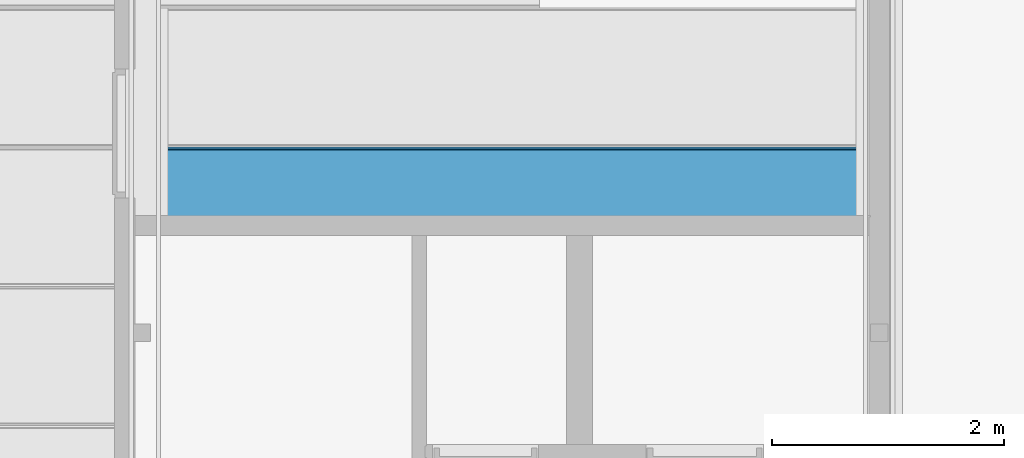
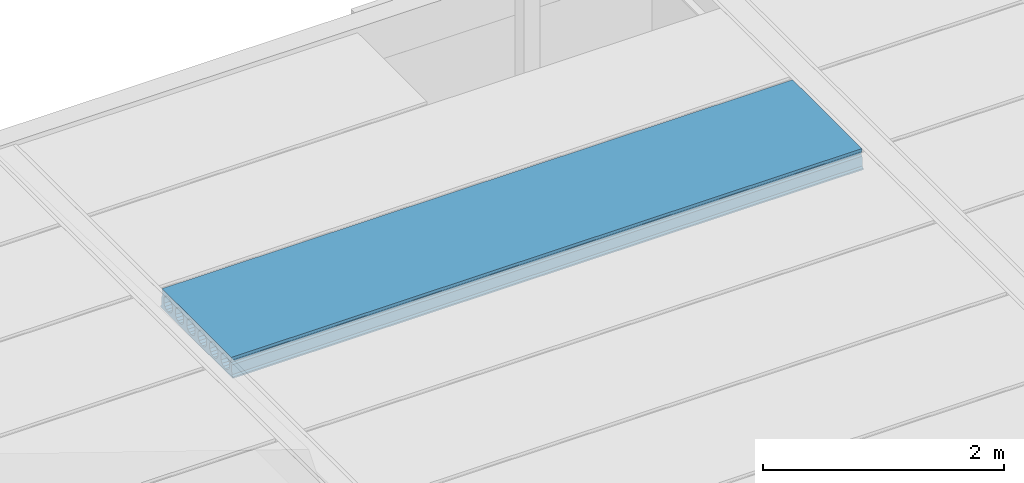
# One storey, part 14 of 45: 1 beam.
"""IFC2X3 building model written with IfcOpenShell, lengths in millimetres."""

from ifc_helpers import new_model, entity, si_unit, converted_unit, frame, origin, place, context, subcontext, project, spatial, faceted_brep, material, element, save


model = new_model("IFC2X3")

# Units and contexts
model_context = context("Model", 3, precision=1e-05, world=origin())
plan_context = context("Plan", 3, precision=1e-05, world=origin())
body_context = subcontext(model_context, "Body", "Model", "MODEL_VIEW")
ifc_project = project(units=[si_unit("LENGTHUNIT", "METRE", prefix="MILLI"), converted_unit("PLANEANGLEUNIT", "DEGREE", entity("IfcPlaneAngleMeasure", 0.0174532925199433), si_unit("PLANEANGLEUNIT", "RADIAN"), dimensions=[0, 0, 0, 0, 0, 0, 0]), si_unit("AREAUNIT", "SQUARE_METRE"), si_unit("VOLUMEUNIT", "CUBIC_METRE")], contexts=[model_context, plan_context])

# Building, storey
building_placement = place(None, origin())
building = spatial("IfcBuilding", under=ifc_project, at=building_placement, Name="HEKF Administrasjonbygg", CompositionType="ELEMENT")
storey_placement = place(building_placement, frame((0.0, 0.0, 6500.0), z_axis=(0.0, 0.0, 1.0), x_axis=(1.0, 0.0, 0.0)))
storey = spatial("IfcBuildingStorey", under=building, at=storey_placement, Name="Plan 1", CompositionType="ELEMENT", Elevation=6500.0)

# Beam
ifc_material = material()
beam_placement = place(storey_placement, frame((0.0, 0.0, -6500.0), z_axis=(0.0, 0.0, 1.0), x_axis=(1.0, 0.0, 0.0)))
element("IfcBeam", 1, at=beam_placement, inside=storey, material=ifc_material, context=body_context, shape_type="Brep", body=[
    faceted_brep([(10135.0, -2399.999999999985, 9684.999999), (10135.0, -2399.999999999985, 9670.0), (16189.99999999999, -2400.0, 9670.000000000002), (16189.99999999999, -2400.0, 9684.999999), (10135.0, -3599.999999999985, 9684.999999), (10135.0, -3599.999999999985, 9670.0), (10135.0, -2399.999999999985, 9670.0), (10135.0, -2399.999999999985, 9684.999999), (10135.0, -2414.99987952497, 9699.999998), (10135.0, -2420.000002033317, 9794.999985), (10135.0, -2435.000003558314, 9809.999985), (10135.0, -2435.000003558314, 9829.999985), (10135.0, -2422.727297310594, 9842.272583), (10135.0, -2424.047732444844, 9870.0), (10135.0, -3575.952372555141, 9870.0), (10135.0, -3577.272729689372, 9842.272735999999), (10135.0, -3565.000000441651, 9829.999985), (10135.0, -3565.000000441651, 9809.999985), (10135.0, -3580.000001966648, 9794.999985), (10135.0, -3584.999999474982, 9699.999998), (10135.0, -3474.999987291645, 9694.999989), (10135.0, -3503.701261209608, 9700.709023), (10135.0, -3528.033020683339, 9716.966995), (10135.0, -3544.290964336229, 9741.298752), (10135.0, -3544.290960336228, 9798.701262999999), (10135.0, -3528.032997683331, 9823.03299), (10135.0, -3503.70124620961, 9839.290955), (10135.0, -3474.999987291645, 9845.0), (10135.0, -3446.298721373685, 9839.290955), (10135.0, -3421.966976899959, 9823.033005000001), (10135.0, -3405.709010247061, 9798.701233), (10135.0, -3405.708980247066, 9741.298767), (10135.0, -3421.966961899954, 9716.966995), (10135.0, -3446.29870537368, 9700.709023), (10135.0, -3284.999967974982, 9694.999989), (10135.0, -3313.701241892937, 9700.709023), (10135.0, -3338.033001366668, 9716.966995), (10135.0, -3354.290945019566, 9741.298752), (10135.0, -3354.290941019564, 9798.701262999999), (10135.0, -3338.032978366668, 9823.03299), (10135.0, -3313.701226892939, 9839.290955), (10135.0, -3284.999967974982, 9845.0), (10135.0, -3256.298702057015, 9839.290955), (10135.0, -3231.966957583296, 9823.033005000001), (10135.0, -3215.708990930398, 9798.701233), (10135.0, -3215.708960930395, 9741.298767), (10135.0, -3231.966942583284, 9716.966995), (10135.0, -3256.298686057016, 9700.709023), (10135.0, -3094.999948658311, 9694.999989), (10135.0, -3123.701222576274, 9700.709023), (10135.0, -3148.032982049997, 9716.966995), (10135.0, -3164.290925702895, 9741.298752), (10135.0, -3164.290921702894, 9798.701262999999), (10135.0, -3148.032959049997, 9823.03299), (10135.0, -3123.701207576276, 9839.290955), (10135.0, -3094.999948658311, 9845.0), (10135.0, -3066.298682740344, 9839.290955), (10135.0, -3041.966938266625, 9823.033005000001), (10135.0, -3025.708971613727, 9798.701233), (10135.0, -3025.708941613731, 9741.298767), (10135.0, -3041.96692326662, 9716.966995), (10135.0, -3066.298666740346, 9700.709023), (10135.0, -2904.99992934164, 9694.999989), (10135.0, -2933.701203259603, 9700.709023), (10135.0, -2958.032962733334, 9716.966995), (10135.0, -2974.290906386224, 9741.298752), (10135.0, -2974.290902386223, 9798.701262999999), (10135.0, -2958.032939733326, 9823.03299), (10135.0, -2933.701188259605, 9839.290955), (10135.0, -2904.99992934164, 9845.0), (10135.0, -2876.29866342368, 9839.290955), (10135.0, -2851.966918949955, 9823.033005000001), (10135.0, -2835.708952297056, 9798.701233), (10135.0, -2835.708922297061, 9741.298767), (10135.0, -2851.96690394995, 9716.966995), (10135.0, -2876.298647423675, 9700.709023), (10135.0, -2714.999910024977, 9694.999989), (10135.0, -2743.701183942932, 9700.709023), (10135.0, -2768.032943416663, 9716.966995), (10135.0, -2784.290887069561, 9741.298752), (10135.0, -2784.29088306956, 9798.701262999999), (10135.0, -2768.032920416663, 9823.03299), (10135.0, -2743.701168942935, 9839.290955), (10135.0, -2714.999910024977, 9845.0), (10135.0, -2686.29864410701, 9839.290955), (10135.0, -2661.966899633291, 9823.033005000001), (10135.0, -2645.708932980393, 9798.701233), (10135.0, -2645.70890298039, 9741.298767), (10135.0, -2661.966884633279, 9716.966995), (10135.0, -2686.298628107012, 9700.709023), (10135.0, -2524.999890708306, 9694.999989), (10135.0, -2553.701164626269, 9700.709023), (10135.0, -2578.032924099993, 9716.966995), (10135.0, -2594.29086775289, 9741.298752), (10135.0, -2594.290863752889, 9798.701262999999), (10135.0, -2578.032901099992, 9823.03299), (10135.0, -2553.701149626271, 9839.290955), (10135.0, -2524.999890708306, 9845.0), (10135.0, -2496.298624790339, 9839.290955), (10135.0, -2471.966880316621, 9823.033005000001), (10135.0, -2455.708913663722, 9798.701233), (10135.0, -2455.708883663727, 9741.298767), (10135.0, -2471.966865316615, 9716.966995), (10135.0, -2496.298608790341, 9700.709023), (16190.0, -3600.0, 9684.999999), (16190.0, -3600.0, 9670.0), (10135.0, -3599.999999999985, 9670.0), (10135.0, -3599.999999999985, 9684.999999), (16189.99999999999, -2400.0, 9684.999999), (16189.99999999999, -2400.0, 9670.000000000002), (16190.0, -3600.0, 9670.0), (16190.0, -3600.0, 9684.999999), (16190.0, -3584.999999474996, 9699.999998), (16190.0, -3580.000001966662, 9794.999985), (16190.0, -3565.000000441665, 9809.999985), (16190.0, -3565.000000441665, 9829.999985), (16190.0, -3577.272729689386, 9842.272735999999), (16190.0, -3575.952372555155, 9870.0), (16190.0, -2424.047732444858, 9870.0), (16190.0, -2422.727297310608, 9842.272583), (16190.0, -2435.000003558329, 9829.999985), (16190.0, -2435.000003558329, 9809.999985), (16190.0, -2420.000002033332, 9794.999985), (16190.0, -2414.999879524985, 9699.999998), (16190.0, -2524.999890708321, 9694.999989), (16190.0, -2496.298608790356, 9700.709023), (16190.0, -2471.96686531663, 9716.966995), (16190.0, -2455.708883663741, 9741.298767), (16190.0, -2455.708913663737, 9798.701233), (16190.0, -2471.966880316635, 9823.033005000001), (16190.0, -2496.298624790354, 9839.290955), (16190.0, -2524.999890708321, 9845.0), (16190.0, -2553.701149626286, 9839.290955), (16190.0, -2578.032901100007, 9823.03299), (16190.0, -2594.290863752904, 9798.701262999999), (16190.0, -2594.290867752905, 9741.298752), (16190.0, -2578.032924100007, 9716.966995), (16190.0, -2553.701164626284, 9700.709023), (16190.0, -2714.999910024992, 9694.999989), (16190.0, -2686.298628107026, 9700.709023), (16190.0, -2661.966884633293, 9716.966995), (16190.0, -2645.708902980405, 9741.298767), (16190.0, -2645.708932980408, 9798.701233), (16190.0, -2661.966899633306, 9823.033005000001), (16190.0, -2686.298644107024, 9839.290955), (16190.0, -2714.999910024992, 9845.0), (16190.0, -2743.701168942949, 9839.290955), (16190.0, -2768.032920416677, 9823.03299), (16190.0, -2784.290883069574, 9798.701262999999), (16190.0, -2784.290887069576, 9741.298752), (16190.0, -2768.032943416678, 9716.966995), (16190.0, -2743.701183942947, 9700.709023), (16190.0, -2904.999929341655, 9694.999989), (16190.0, -2876.29864742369, 9700.709023), (16190.0, -2851.966903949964, 9716.966995), (16190.0, -2835.708922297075, 9741.298767), (16190.0, -2835.708952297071, 9798.701233), (16190.0, -2851.966918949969, 9823.033005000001), (16190.0, -2876.298663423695, 9839.290955), (16190.0, -2904.999929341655, 9845.0), (16190.0, -2933.70118825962, 9839.290955), (16190.0, -2958.032939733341, 9823.03299), (16190.0, -2974.290902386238, 9798.701262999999), (16190.0, -2974.290906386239, 9741.298752), (16190.0, -2958.032962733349, 9716.966995), (16190.0, -2933.701203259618, 9700.709023), (16190.0, -3094.999948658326, 9694.999989), (16190.0, -3066.29866674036, 9700.709023), (16190.0, -3041.966923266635, 9716.966995), (16190.0, -3025.708941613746, 9741.298767), (16190.0, -3025.708971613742, 9798.701233), (16190.0, -3041.96693826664, 9823.033005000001), (16190.0, -3066.298682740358, 9839.290955), (16190.0, -3094.999948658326, 9845.0), (16190.0, -3123.701207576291, 9839.290955), (16190.0, -3148.032959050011, 9823.03299), (16190.0, -3164.290921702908, 9798.701262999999), (16190.0, -3164.29092570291, 9741.298752), (16190.0, -3148.032982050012, 9716.966995), (16190.0, -3123.701222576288, 9700.709023), (16190.0, -3284.999967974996, 9694.999989), (16190.0, -3256.298686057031, 9700.709023), (16190.0, -3231.966942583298, 9716.966995), (16190.0, -3215.708960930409, 9741.298767), (16190.0, -3215.708990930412, 9798.701233), (16190.0, -3231.96695758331, 9823.033005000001), (16190.0, -3256.298702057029, 9839.290955), (16190.0, -3284.999967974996, 9845.0), (16190.0, -3313.701226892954, 9839.290955), (16190.0, -3338.032978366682, 9823.03299), (16190.0, -3354.290941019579, 9798.701262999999), (16190.0, -3354.29094501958, 9741.298752), (16190.0, -3338.033001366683, 9716.966995), (16190.0, -3313.701241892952, 9700.709023), (16190.0, -3474.99998729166, 9694.999989), (16190.0, -3446.298705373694, 9700.709023), (16190.0, -3421.966961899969, 9716.966995), (16190.0, -3405.70898024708, 9741.298767), (16190.0, -3405.709010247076, 9798.701233), (16190.0, -3421.966976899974, 9823.033005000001), (16190.0, -3446.2987213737, 9839.290955), (16190.0, -3474.99998729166, 9845.0), (16190.0, -3503.701246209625, 9839.290955), (16190.0, -3528.032997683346, 9823.03299), (16190.0, -3544.290960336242, 9798.701262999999), (16190.0, -3544.290964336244, 9741.298752), (16190.0, -3528.033020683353, 9716.966995), (16190.0, -3503.701261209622, 9700.709023), (10135.0, -3599.999999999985, 9684.999999), (10135.0, -3584.999999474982, 9699.999998), (16190.0, -3584.999999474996, 9699.999998), (16190.0, -3600.0, 9684.999999), (10135.0, -3584.999999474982, 9699.999998), (10135.0, -3580.000001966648, 9794.999985), (16190.0, -3580.000001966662, 9794.999985), (16190.0, -3584.999999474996, 9699.999998), (10135.0, -3580.000001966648, 9794.999985), (10135.0, -3565.000000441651, 9809.999985), (16190.0, -3565.000000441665, 9809.999985), (16190.0, -3580.000001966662, 9794.999985), (10135.0, -3565.000000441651, 9809.999985), (10135.0, -3565.000000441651, 9829.999985), (16190.0, -3565.000000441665, 9829.999985), (16190.0, -3565.000000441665, 9809.999985), (10135.0, -3565.000000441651, 9829.999985), (10135.0, -3577.272729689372, 9842.272735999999), (16190.0, -3577.272729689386, 9842.272735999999), (16190.0, -3565.000000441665, 9829.999985), (10135.0, -3577.272729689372, 9842.272735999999), (10135.0, -3575.952372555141, 9870.0), (16190.0, -3575.952372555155, 9870.0), (16190.0, -3577.272729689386, 9842.272735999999), (10135.0, -3575.952372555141, 9870.0), (10135.0, -2424.047732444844, 9870.0), (16190.0, -2424.047732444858, 9870.0), (16190.0, -3575.952372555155, 9870.0), (10135.0, -2424.047732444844, 9870.0), (10135.0, -2422.727297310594, 9842.272583), (16190.0, -2422.727297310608, 9842.272583), (16190.0, -2424.047732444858, 9870.0), (10135.0, -2422.727297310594, 9842.272583), (10135.0, -2435.000003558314, 9829.999985), (16190.0, -2435.000003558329, 9829.999985), (16190.0, -2422.727297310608, 9842.272583), (10135.0, -2435.000003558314, 9829.999985), (10135.0, -2435.000003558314, 9809.999985), (16190.0, -2435.000003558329, 9809.999985), (16190.0, -2435.000003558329, 9829.999985), (10135.0, -2435.000003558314, 9809.999985), (10135.0, -2420.000002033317, 9794.999985), (16190.0, -2420.000002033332, 9794.999985), (16190.0, -2435.000003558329, 9809.999985), (10135.0, -2420.000002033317, 9794.999985), (10135.0, -2414.99987952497, 9699.999998), (16190.0, -2414.999879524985, 9699.999998), (16190.0, -2420.000002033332, 9794.999985), (10135.0, -2414.99987952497, 9699.999998), (10135.0, -2399.999999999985, 9684.999999), (16189.99999999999, -2400.0, 9684.999999), (16190.0, -2414.999879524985, 9699.999998), (10135.0, -2399.999999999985, 9670.0), (10135.0, -3599.999999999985, 9670.0), (16190.0, -3600.0, 9670.0), (16189.99999999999, -2400.0, 9670.000000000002), (10135.0, -2524.999890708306, 9694.999989), (10135.0, -2496.298608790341, 9700.709023), (16190.0, -2496.298608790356, 9700.709023), (16190.0, -2524.999890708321, 9694.999989), (10135.0, -2496.298608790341, 9700.709023), (10135.0, -2471.966865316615, 9716.966995), (16190.0, -2471.96686531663, 9716.966995), (16190.0, -2496.298608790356, 9700.709023), (10135.0, -2471.966865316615, 9716.966995), (10135.0, -2455.708883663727, 9741.298767), (16190.0, -2455.708883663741, 9741.298767), (16190.0, -2471.96686531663, 9716.966995), (10135.0, -2455.708883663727, 9741.298767), (10135.0, -2455.708913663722, 9798.701233), (16190.0, -2455.708913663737, 9798.701233), (16190.0, -2455.708883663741, 9741.298767), (10135.0, -2455.708913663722, 9798.701233), (10135.0, -2471.966880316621, 9823.033005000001), (16190.0, -2471.966880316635, 9823.033005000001), (16190.0, -2455.708913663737, 9798.701233), (10135.0, -2471.966880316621, 9823.033005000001), (10135.0, -2496.298624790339, 9839.290955), (16190.0, -2496.298624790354, 9839.290955), (16190.0, -2471.966880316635, 9823.033005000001), (10135.0, -2496.298624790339, 9839.290955), (10135.0, -2524.999890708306, 9845.0), (16190.0, -2524.999890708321, 9845.0), (16190.0, -2496.298624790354, 9839.290955), (10135.0, -2524.999890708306, 9845.0), (10135.0, -2553.701149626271, 9839.290955), (16190.0, -2553.701149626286, 9839.290955), (16190.0, -2524.999890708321, 9845.0), (10135.0, -2553.701149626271, 9839.290955), (10135.0, -2578.032901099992, 9823.03299), (16190.0, -2578.032901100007, 9823.03299), (16190.0, -2553.701149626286, 9839.290955), (10135.0, -2578.032901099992, 9823.03299), (10135.0, -2594.290863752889, 9798.701262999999), (16190.0, -2594.290863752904, 9798.701262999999), (16190.0, -2578.032901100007, 9823.03299), (10135.0, -2594.290863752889, 9798.701262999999), (10135.0, -2594.29086775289, 9741.298752), (16190.0, -2594.290867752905, 9741.298752), (16190.0, -2594.290863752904, 9798.701262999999), (10135.0, -2594.29086775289, 9741.298752), (10135.0, -2578.032924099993, 9716.966995), (16190.0, -2578.032924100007, 9716.966995), (16190.0, -2594.290867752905, 9741.298752), (10135.0, -2578.032924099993, 9716.966995), (10135.0, -2553.701164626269, 9700.709023), (16190.0, -2553.701164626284, 9700.709023), (16190.0, -2578.032924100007, 9716.966995), (10135.0, -2553.701164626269, 9700.709023), (10135.0, -2524.999890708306, 9694.999989), (16190.0, -2524.999890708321, 9694.999989), (16190.0, -2553.701164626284, 9700.709023), (10135.0, -2714.999910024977, 9694.999989), (10135.0, -2686.298628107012, 9700.709023), (16190.0, -2686.298628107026, 9700.709023), (16190.0, -2714.999910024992, 9694.999989), (10135.0, -2686.298628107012, 9700.709023), (10135.0, -2661.966884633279, 9716.966995), (16190.0, -2661.966884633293, 9716.966995), (16190.0, -2686.298628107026, 9700.709023), (10135.0, -2661.966884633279, 9716.966995), (10135.0, -2645.70890298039, 9741.298767), (16190.0, -2645.708902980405, 9741.298767), (16190.0, -2661.966884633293, 9716.966995), (10135.0, -2645.70890298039, 9741.298767), (10135.0, -2645.708932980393, 9798.701233), (16190.0, -2645.708932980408, 9798.701233), (16190.0, -2645.708902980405, 9741.298767), (10135.0, -2645.708932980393, 9798.701233), (10135.0, -2661.966899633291, 9823.033005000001), (16190.0, -2661.966899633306, 9823.033005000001), (16190.0, -2645.708932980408, 9798.701233), (10135.0, -2661.966899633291, 9823.033005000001), (10135.0, -2686.29864410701, 9839.290955), (16190.0, -2686.298644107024, 9839.290955), (16190.0, -2661.966899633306, 9823.033005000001), (10135.0, -2686.29864410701, 9839.290955), (10135.0, -2714.999910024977, 9845.0), (16190.0, -2714.999910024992, 9845.0), (16190.0, -2686.298644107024, 9839.290955), (10135.0, -2714.999910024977, 9845.0), (10135.0, -2743.701168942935, 9839.290955), (16190.0, -2743.701168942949, 9839.290955), (16190.0, -2714.999910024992, 9845.0), (10135.0, -2743.701168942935, 9839.290955), (10135.0, -2768.032920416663, 9823.03299), (16190.0, -2768.032920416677, 9823.03299), (16190.0, -2743.701168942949, 9839.290955), (10135.0, -2768.032920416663, 9823.03299), (10135.0, -2784.29088306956, 9798.701262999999), (16190.0, -2784.290883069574, 9798.701262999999), (16190.0, -2768.032920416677, 9823.03299), (10135.0, -2784.29088306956, 9798.701262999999), (10135.0, -2784.290887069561, 9741.298752), (16190.0, -2784.290887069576, 9741.298752), (16190.0, -2784.290883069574, 9798.701262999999), (10135.0, -2784.290887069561, 9741.298752), (10135.0, -2768.032943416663, 9716.966995), (16190.0, -2768.032943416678, 9716.966995), (16190.0, -2784.290887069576, 9741.298752), (10135.0, -2768.032943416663, 9716.966995), (10135.0, -2743.701183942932, 9700.709023), (16190.0, -2743.701183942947, 9700.709023), (16190.0, -2768.032943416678, 9716.966995), (10135.0, -2743.701183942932, 9700.709023), (10135.0, -2714.999910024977, 9694.999989), (16190.0, -2714.999910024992, 9694.999989), (16190.0, -2743.701183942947, 9700.709023), (10135.0, -2904.99992934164, 9694.999989), (10135.0, -2876.298647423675, 9700.709023), (16190.0, -2876.29864742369, 9700.709023), (16190.0, -2904.999929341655, 9694.999989), (10135.0, -2876.298647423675, 9700.709023), (10135.0, -2851.96690394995, 9716.966995), (16190.0, -2851.966903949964, 9716.966995), (16190.0, -2876.29864742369, 9700.709023), (10135.0, -2851.96690394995, 9716.966995), (10135.0, -2835.708922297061, 9741.298767), (16190.0, -2835.708922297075, 9741.298767), (16190.0, -2851.966903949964, 9716.966995), (10135.0, -2835.708922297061, 9741.298767), (10135.0, -2835.708952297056, 9798.701233), (16190.0, -2835.708952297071, 9798.701233), (16190.0, -2835.708922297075, 9741.298767), (10135.0, -2835.708952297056, 9798.701233), (10135.0, -2851.966918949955, 9823.033005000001), (16190.0, -2851.966918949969, 9823.033005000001), (16190.0, -2835.708952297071, 9798.701233), (10135.0, -2851.966918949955, 9823.033005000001), (10135.0, -2876.29866342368, 9839.290955), (16190.0, -2876.298663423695, 9839.290955), (16190.0, -2851.966918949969, 9823.033005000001), (10135.0, -2876.29866342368, 9839.290955), (10135.0, -2904.99992934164, 9845.0), (16190.0, -2904.999929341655, 9845.0), (16190.0, -2876.298663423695, 9839.290955), (10135.0, -2904.99992934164, 9845.0), (10135.0, -2933.701188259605, 9839.290955), (16190.0, -2933.70118825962, 9839.290955), (16190.0, -2904.999929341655, 9845.0), (10135.0, -2933.701188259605, 9839.290955), (10135.0, -2958.032939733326, 9823.03299), (16190.0, -2958.032939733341, 9823.03299), (16190.0, -2933.70118825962, 9839.290955), (10135.0, -2958.032939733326, 9823.03299), (10135.0, -2974.290902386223, 9798.701262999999), (16190.0, -2974.290902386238, 9798.701262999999), (16190.0, -2958.032939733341, 9823.03299), (10135.0, -2974.290902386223, 9798.701262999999), (10135.0, -2974.290906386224, 9741.298752), (16190.0, -2974.290906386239, 9741.298752), (16190.0, -2974.290902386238, 9798.701262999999), (10135.0, -2974.290906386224, 9741.298752), (10135.0, -2958.032962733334, 9716.966995), (16190.0, -2958.032962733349, 9716.966995), (16190.0, -2974.290906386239, 9741.298752), (10135.0, -2958.032962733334, 9716.966995), (10135.0, -2933.701203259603, 9700.709023), (16190.0, -2933.701203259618, 9700.709023), (16190.0, -2958.032962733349, 9716.966995), (10135.0, -2933.701203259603, 9700.709023), (10135.0, -2904.99992934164, 9694.999989), (16190.0, -2904.999929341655, 9694.999989), (16190.0, -2933.701203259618, 9700.709023), (10135.0, -3094.999948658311, 9694.999989), (10135.0, -3066.298666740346, 9700.709023), (16190.0, -3066.29866674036, 9700.709023), (16190.0, -3094.999948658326, 9694.999989), (10135.0, -3066.298666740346, 9700.709023), (10135.0, -3041.96692326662, 9716.966995), (16190.0, -3041.966923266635, 9716.966995), (16190.0, -3066.29866674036, 9700.709023), (10135.0, -3041.96692326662, 9716.966995), (10135.0, -3025.708941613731, 9741.298767), (16190.0, -3025.708941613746, 9741.298767), (16190.0, -3041.966923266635, 9716.966995), (10135.0, -3025.708941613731, 9741.298767), (10135.0, -3025.708971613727, 9798.701233), (16190.0, -3025.708971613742, 9798.701233), (16190.0, -3025.708941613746, 9741.298767), (10135.0, -3025.708971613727, 9798.701233), (10135.0, -3041.966938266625, 9823.033005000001), (16190.0, -3041.96693826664, 9823.033005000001), (16190.0, -3025.708971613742, 9798.701233), (10135.0, -3041.966938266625, 9823.033005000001), (10135.0, -3066.298682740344, 9839.290955), (16190.0, -3066.298682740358, 9839.290955), (16190.0, -3041.96693826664, 9823.033005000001), (10135.0, -3066.298682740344, 9839.290955), (10135.0, -3094.999948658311, 9845.0), (16190.0, -3094.999948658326, 9845.0), (16190.0, -3066.298682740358, 9839.290955), (10135.0, -3094.999948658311, 9845.0), (10135.0, -3123.701207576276, 9839.290955), (16190.0, -3123.701207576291, 9839.290955), (16190.0, -3094.999948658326, 9845.0), (10135.0, -3123.701207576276, 9839.290955), (10135.0, -3148.032959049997, 9823.03299), (16190.0, -3148.032959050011, 9823.03299), (16190.0, -3123.701207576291, 9839.290955), (10135.0, -3148.032959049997, 9823.03299), (10135.0, -3164.290921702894, 9798.701262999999), (16190.0, -3164.290921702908, 9798.701262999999), (16190.0, -3148.032959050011, 9823.03299), (10135.0, -3164.290921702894, 9798.701262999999), (10135.0, -3164.290925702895, 9741.298752), (16190.0, -3164.29092570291, 9741.298752), (16190.0, -3164.290921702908, 9798.701262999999), (10135.0, -3164.290925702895, 9741.298752), (10135.0, -3148.032982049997, 9716.966995), (16190.0, -3148.032982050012, 9716.966995), (16190.0, -3164.29092570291, 9741.298752), (10135.0, -3148.032982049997, 9716.966995), (10135.0, -3123.701222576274, 9700.709023), (16190.0, -3123.701222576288, 9700.709023), (16190.0, -3148.032982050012, 9716.966995), (10135.0, -3123.701222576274, 9700.709023), (10135.0, -3094.999948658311, 9694.999989), (16190.0, -3094.999948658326, 9694.999989), (16190.0, -3123.701222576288, 9700.709023), (10135.0, -3284.999967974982, 9694.999989), (10135.0, -3256.298686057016, 9700.709023), (16190.0, -3256.298686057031, 9700.709023), (16190.0, -3284.999967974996, 9694.999989), (10135.0, -3256.298686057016, 9700.709023), (10135.0, -3231.966942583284, 9716.966995), (16190.0, -3231.966942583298, 9716.966995), (16190.0, -3256.298686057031, 9700.709023), (10135.0, -3231.966942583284, 9716.966995), (10135.0, -3215.708960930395, 9741.298767), (16190.0, -3215.708960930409, 9741.298767), (16190.0, -3231.966942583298, 9716.966995), (10135.0, -3215.708960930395, 9741.298767), (10135.0, -3215.708990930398, 9798.701233), (16190.0, -3215.708990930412, 9798.701233), (16190.0, -3215.708960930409, 9741.298767), (10135.0, -3215.708990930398, 9798.701233), (10135.0, -3231.966957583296, 9823.033005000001), (16190.0, -3231.96695758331, 9823.033005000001), (16190.0, -3215.708990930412, 9798.701233), (10135.0, -3231.966957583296, 9823.033005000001), (10135.0, -3256.298702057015, 9839.290955), (16190.0, -3256.298702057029, 9839.290955), (16190.0, -3231.96695758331, 9823.033005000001), (10135.0, -3256.298702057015, 9839.290955), (10135.0, -3284.999967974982, 9845.0), (16190.0, -3284.999967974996, 9845.0), (16190.0, -3256.298702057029, 9839.290955), (10135.0, -3284.999967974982, 9845.0), (10135.0, -3313.701226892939, 9839.290955), (16190.0, -3313.701226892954, 9839.290955), (16190.0, -3284.999967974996, 9845.0), (10135.0, -3313.701226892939, 9839.290955), (10135.0, -3338.032978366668, 9823.03299), (16190.0, -3338.032978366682, 9823.03299), (16190.0, -3313.701226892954, 9839.290955), (10135.0, -3338.032978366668, 9823.03299), (10135.0, -3354.290941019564, 9798.701262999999), (16190.0, -3354.290941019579, 9798.701262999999), (16190.0, -3338.032978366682, 9823.03299), (10135.0, -3354.290941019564, 9798.701262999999), (10135.0, -3354.290945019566, 9741.298752), (16190.0, -3354.29094501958, 9741.298752), (16190.0, -3354.290941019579, 9798.701262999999), (10135.0, -3354.290945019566, 9741.298752), (10135.0, -3338.033001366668, 9716.966995), (16190.0, -3338.033001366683, 9716.966995), (16190.0, -3354.29094501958, 9741.298752), (10135.0, -3338.033001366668, 9716.966995), (10135.0, -3313.701241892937, 9700.709023), (16190.0, -3313.701241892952, 9700.709023), (16190.0, -3338.033001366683, 9716.966995), (10135.0, -3313.701241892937, 9700.709023), (10135.0, -3284.999967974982, 9694.999989), (16190.0, -3284.999967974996, 9694.999989), (16190.0, -3313.701241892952, 9700.709023), (10135.0, -3474.999987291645, 9694.999989), (10135.0, -3446.29870537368, 9700.709023), (16190.0, -3446.298705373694, 9700.709023), (16190.0, -3474.99998729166, 9694.999989), (10135.0, -3446.29870537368, 9700.709023), (10135.0, -3421.966961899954, 9716.966995), (16190.0, -3421.966961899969, 9716.966995), (16190.0, -3446.298705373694, 9700.709023), (10135.0, -3421.966961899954, 9716.966995), (10135.0, -3405.708980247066, 9741.298767), (16190.0, -3405.70898024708, 9741.298767), (16190.0, -3421.966961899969, 9716.966995), (10135.0, -3405.708980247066, 9741.298767), (10135.0, -3405.709010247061, 9798.701233), (16190.0, -3405.709010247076, 9798.701233), (16190.0, -3405.70898024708, 9741.298767), (10135.0, -3405.709010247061, 9798.701233), (10135.0, -3421.966976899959, 9823.033005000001), (16190.0, -3421.966976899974, 9823.033005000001), (16190.0, -3405.709010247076, 9798.701233), (10135.0, -3421.966976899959, 9823.033005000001), (10135.0, -3446.298721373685, 9839.290955), (16190.0, -3446.2987213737, 9839.290955), (16190.0, -3421.966976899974, 9823.033005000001), (10135.0, -3446.298721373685, 9839.290955), (10135.0, -3474.999987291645, 9845.0), (16190.0, -3474.99998729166, 9845.0), (16190.0, -3446.2987213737, 9839.290955), (10135.0, -3474.999987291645, 9845.0), (10135.0, -3503.70124620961, 9839.290955), (16190.0, -3503.701246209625, 9839.290955), (16190.0, -3474.99998729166, 9845.0), (10135.0, -3503.70124620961, 9839.290955), (10135.0, -3528.032997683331, 9823.03299), (16190.0, -3528.032997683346, 9823.03299), (16190.0, -3503.701246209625, 9839.290955), (10135.0, -3528.032997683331, 9823.03299), (10135.0, -3544.290960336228, 9798.701262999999), (16190.0, -3544.290960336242, 9798.701262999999), (16190.0, -3528.032997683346, 9823.03299), (10135.0, -3544.290960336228, 9798.701262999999), (10135.0, -3544.290964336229, 9741.298752), (16190.0, -3544.290964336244, 9741.298752), (16190.0, -3544.290960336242, 9798.701262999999), (10135.0, -3544.290964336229, 9741.298752), (10135.0, -3528.033020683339, 9716.966995), (16190.0, -3528.033020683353, 9716.966995), (16190.0, -3544.290964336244, 9741.298752), (10135.0, -3528.033020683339, 9716.966995), (10135.0, -3503.701261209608, 9700.709023), (16190.0, -3503.701261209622, 9700.709023), (16190.0, -3528.033020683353, 9716.966995), (10135.0, -3503.701261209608, 9700.709023), (10135.0, -3474.999987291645, 9694.999989), (16190.0, -3474.99998729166, 9694.999989), (16190.0, -3503.701261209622, 9700.709023)], [[[0, 1, 2, 3]], [[4, 5, 6, 7, 8, 9, 10, 11, 12, 13, 14, 15, 16, 17, 18, 19], [20, 21, 22, 23, 24, 25, 26, 27, 28, 29, 30, 31, 32, 33], [34, 35, 36, 37, 38, 39, 40, 41, 42, 43, 44, 45, 46, 47], [48, 49, 50, 51, 52, 53, 54, 55, 56, 57, 58, 59, 60, 61], [62, 63, 64, 65, 66, 67, 68, 69, 70, 71, 72, 73, 74, 75], [76, 77, 78, 79, 80, 81, 82, 83, 84, 85, 86, 87, 88, 89], [90, 91, 92, 93, 94, 95, 96, 97, 98, 99, 100, 101, 102, 103]], [[104, 105, 106, 107]], [[108, 109, 110, 111, 112, 113, 114, 115, 116, 117, 118, 119, 120, 121, 122, 123], [124, 125, 126, 127, 128, 129, 130, 131, 132, 133, 134, 135, 136, 137], [138, 139, 140, 141, 142, 143, 144, 145, 146, 147, 148, 149, 150, 151], [152, 153, 154, 155, 156, 157, 158, 159, 160, 161, 162, 163, 164, 165], [166, 167, 168, 169, 170, 171, 172, 173, 174, 175, 176, 177, 178, 179], [180, 181, 182, 183, 184, 185, 186, 187, 188, 189, 190, 191, 192, 193], [194, 195, 196, 197, 198, 199, 200, 201, 202, 203, 204, 205, 206, 207]], [[208, 209, 210, 211]], [[212, 213, 214, 215]], [[216, 217, 218, 219]], [[220, 221, 222, 223]], [[224, 225, 226, 227]], [[228, 229, 230, 231]], [[232, 233, 234, 235]], [[236, 237, 238, 239]], [[240, 241, 242, 243]], [[244, 245, 246, 247]], [[248, 249, 250, 251]], [[252, 253, 254, 255]], [[256, 257, 258, 259]], [[260, 261, 262, 263]], [[264, 265, 266, 267]], [[268, 269, 270, 271]], [[272, 273, 274, 275]], [[276, 277, 278, 279]], [[280, 281, 282, 283]], [[284, 285, 286, 287]], [[288, 289, 290, 291]], [[292, 293, 294, 295]], [[296, 297, 298, 299]], [[300, 301, 302, 303]], [[304, 305, 306, 307]], [[308, 309, 310, 311]], [[312, 313, 314, 315]], [[316, 317, 318, 319]], [[320, 321, 322, 323]], [[324, 325, 326, 327]], [[328, 329, 330, 331]], [[332, 333, 334, 335]], [[336, 337, 338, 339]], [[340, 341, 342, 343]], [[344, 345, 346, 347]], [[348, 349, 350, 351]], [[352, 353, 354, 355]], [[356, 357, 358, 359]], [[360, 361, 362, 363]], [[364, 365, 366, 367]], [[368, 369, 370, 371]], [[372, 373, 374, 375]], [[376, 377, 378, 379]], [[380, 381, 382, 383]], [[384, 385, 386, 387]], [[388, 389, 390, 391]], [[392, 393, 394, 395]], [[396, 397, 398, 399]], [[400, 401, 402, 403]], [[404, 405, 406, 407]], [[408, 409, 410, 411]], [[412, 413, 414, 415]], [[416, 417, 418, 419]], [[420, 421, 422, 423]], [[424, 425, 426, 427]], [[428, 429, 430, 431]], [[432, 433, 434, 435]], [[436, 437, 438, 439]], [[440, 441, 442, 443]], [[444, 445, 446, 447]], [[448, 449, 450, 451]], [[452, 453, 454, 455]], [[456, 457, 458, 459]], [[460, 461, 462, 463]], [[464, 465, 466, 467]], [[468, 469, 470, 471]], [[472, 473, 474, 475]], [[476, 477, 478, 479]], [[480, 481, 482, 483]], [[484, 485, 486, 487]], [[488, 489, 490, 491]], [[492, 493, 494, 495]], [[496, 497, 498, 499]], [[500, 501, 502, 503]], [[504, 505, 506, 507]], [[508, 509, 510, 511]], [[512, 513, 514, 515]], [[516, 517, 518, 519]], [[520, 521, 522, 523]], [[524, 525, 526, 527]], [[528, 529, 530, 531]], [[532, 533, 534, 535]], [[536, 537, 538, 539]], [[540, 541, 542, 543]], [[544, 545, 546, 547]], [[548, 549, 550, 551]], [[552, 553, 554, 555]], [[556, 557, 558, 559]], [[560, 561, 562, 563]], [[564, 565, 566, 567]], [[568, 569, 570, 571]], [[572, 573, 574, 575]], [[576, 577, 578, 579]], [[580, 581, 582, 583]], [[584, 585, 586, 587]], [[588, 589, 590, 591]], [[592, 593, 594, 595]], [[596, 597, 598, 599]]], orient=[[False], [False, False, False, False, False, False, False], [False], [False, False, False, False, False, False, False], [False], [False], [False], [False], [False], [False], [False], [False], [False], [False], [False], [False], [False], [False], [False], [False], [False], [False], [False], [False], [False], [False], [False], [False], [False], [False], [False], [False], [False], [False], [False], [False], [False], [False], [False], [False], [False], [False], [False], [False], [False], [False], [False], [False], [False], [False], [False], [False], [False], [False], [False], [False], [False], [False], [False], [False], [False], [False], [False], [False], [False], [False], [False], [False], [False], [False], [False], [False], [False], [False], [False], [False], [False], [False], [False], [False], [False], [False], [False], [False], [False], [False], [False], [False], [False], [False], [False], [False], [False], [False], [False], [False], [False], [False], [False], [False], [False], [False]]),
])

save(model, "model.ifc")
